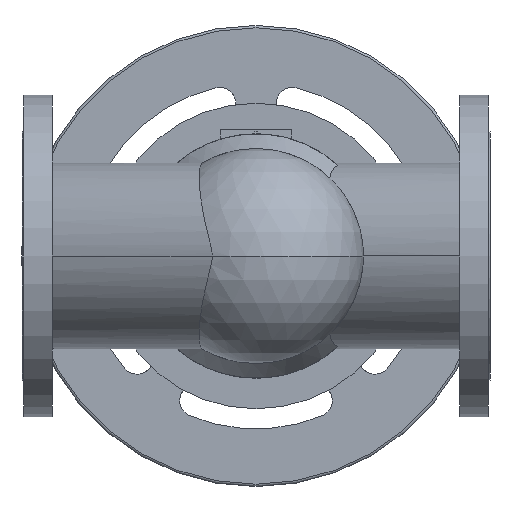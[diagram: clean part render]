
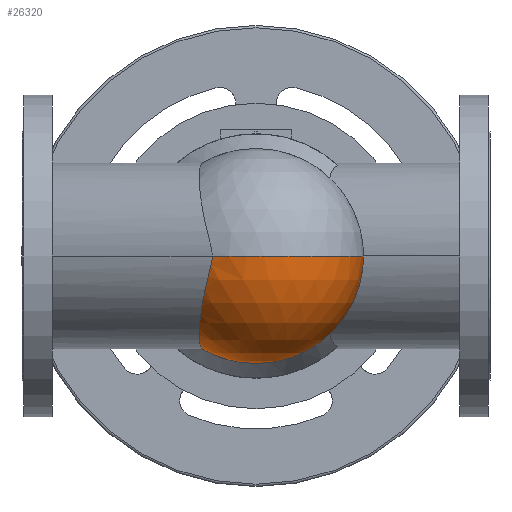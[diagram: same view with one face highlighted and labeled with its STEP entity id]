
A CAD part, front view. The second image highlights one B-rep face of the part: STEP entity #26320.
In plain terms, the highlighted spherical face has radius 93.165 mm.
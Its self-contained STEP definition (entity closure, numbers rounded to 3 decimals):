
#2660=CARTESIAN_POINT('',(155.997,-57.835,
80.439));
#2670=CARTESIAN_POINT('',(155.894,-58.823,
80.379));
#2680=CARTESIAN_POINT('',(155.793,-59.816,
80.301));
#2690=CARTESIAN_POINT('',(155.418,-63.585,
79.94));
#2700=CARTESIAN_POINT('',(155.161,-66.381,
79.538));
#2710=CARTESIAN_POINT('',(154.696,-71.966,
78.453));
#2720=CARTESIAN_POINT('',(154.489,-74.754,
77.772));
#2730=CARTESIAN_POINT('',(154.135,-80.276,
76.136));
#2740=CARTESIAN_POINT('',(153.988,-83.01,
75.181));
#2750=CARTESIAN_POINT('',(153.765,-88.374,
73.016));
#2760=CARTESIAN_POINT('',(153.688,-91.008,
71.805));
#2770=CARTESIAN_POINT('',(153.61,-96.136,
69.15));
#2780=CARTESIAN_POINT('',(153.609,-98.631,
67.707));
#2790=CARTESIAN_POINT('',(153.687,-103.442,
64.623));
#2800=CARTESIAN_POINT('',(153.766,-105.76,
62.982));
#2810=CARTESIAN_POINT('',(154.001,-110.187,
59.548));
#2820=CARTESIAN_POINT('',(154.159,-112.297,
57.755));
#2830=CARTESIAN_POINT('',(154.543,-116.244,
54.103));
#2840=CARTESIAN_POINT('',(154.775,-118.154,
52.184));
#2850=CARTESIAN_POINT('',(155.329,-121.835,
48.153));
#2860=CARTESIAN_POINT('',(155.651,-123.605,
46.041));
#2870=CARTESIAN_POINT('',(156.385,-126.966,
41.659));
#2880=CARTESIAN_POINT('',(156.798,-128.555,
39.39));
#2890=CARTESIAN_POINT('',(157.711,-131.522,
34.737));
#2900=CARTESIAN_POINT('',(158.211,-132.899,
32.354));
#2910=CARTESIAN_POINT('',(159.286,-135.419,
27.519));
#2920=CARTESIAN_POINT('',(159.86,-136.56,
25.071));
#2930=CARTESIAN_POINT('',(160.76,-138.087,
21.376));
#2940=CARTESIAN_POINT('',(161.067,-138.566,
20.141));
#2950=CARTESIAN_POINT('',(161.686,-139.46,
17.666));
#2960=CARTESIAN_POINT('',(161.999,-139.876,
16.426));
#2970=CARTESIAN_POINT('',(162.624,-140.641,
13.944));
#2980=CARTESIAN_POINT('',(162.934,-140.991,
12.703));
#2990=CARTESIAN_POINT('',(163.385,-141.461,
10.837));
#3000=CARTESIAN_POINT('',(163.533,-141.61,
10.215));
#3010=CARTESIAN_POINT('',(163.82,-141.887,
8.968));
#3020=CARTESIAN_POINT('',(163.959,-142.015,
8.343));
#3030=CARTESIAN_POINT('',(164.223,-142.252,
7.089));
#3040=CARTESIAN_POINT('',(164.347,-142.359,
6.46));
#3050=CARTESIAN_POINT('',(164.574,-142.55,
5.195));
#3060=CARTESIAN_POINT('',(164.677,-142.633,
4.559));
#3070=CARTESIAN_POINT('',(164.849,-142.77,
3.277));
#3080=CARTESIAN_POINT('',(164.919,-142.824,
2.631));
#3090=CARTESIAN_POINT('',(165.015,-142.897,
1.326));
#3100=CARTESIAN_POINT('',(165.041,-142.916,
0.667));
#3110=CARTESIAN_POINT('',(165.041,-142.916,
0.));
#3120=CARTESIAN_POINT('',(165.041,-142.916,
-0.667));
#3130=CARTESIAN_POINT('',(165.015,-142.897,
-1.326));
#3140=CARTESIAN_POINT('',(164.919,-142.824,
-2.631));
#3150=CARTESIAN_POINT('',(164.849,-142.77,
-3.277));
#3160=CARTESIAN_POINT('',(164.677,-142.633,
-4.559));
#3170=CARTESIAN_POINT('',(164.574,-142.55,
-5.195));
#3180=CARTESIAN_POINT('',(164.347,-142.359,
-6.46));
#3190=CARTESIAN_POINT('',(164.223,-142.252,
-7.089));
#3200=CARTESIAN_POINT('',(163.959,-142.015,
-8.343));
#3210=CARTESIAN_POINT('',(163.82,-141.887,
-8.968));
#3220=CARTESIAN_POINT('',(163.533,-141.61,
-10.215));
#3230=CARTESIAN_POINT('',(163.385,-141.461,
-10.837));
#3240=CARTESIAN_POINT('',(162.934,-140.991,
-12.703));
#3250=CARTESIAN_POINT('',(162.624,-140.641,
-13.944));
#3260=CARTESIAN_POINT('',(161.999,-139.876,
-16.426));
#3270=CARTESIAN_POINT('',(161.686,-139.46,
-17.666));
#3280=CARTESIAN_POINT('',(161.067,-138.566,
-20.141));
#3290=CARTESIAN_POINT('',(160.76,-138.087,
-21.376));
#3300=CARTESIAN_POINT('',(159.86,-136.56,
-25.071));
#3310=CARTESIAN_POINT('',(159.286,-135.419,
-27.519));
#3320=CARTESIAN_POINT('',(158.211,-132.899,
-32.354));
#3330=CARTESIAN_POINT('',(157.711,-131.522,
-34.737));
#3340=CARTESIAN_POINT('',(156.798,-128.555,
-39.39));
#3350=CARTESIAN_POINT('',(156.385,-126.966,
-41.659));
#3360=CARTESIAN_POINT('',(155.651,-123.605,
-46.041));
#3370=CARTESIAN_POINT('',(155.329,-121.835,
-48.153));
#3380=CARTESIAN_POINT('',(154.775,-118.154,
-52.184));
#3390=CARTESIAN_POINT('',(154.543,-116.244,
-54.103));
#3400=CARTESIAN_POINT('',(154.159,-112.297,
-57.755));
#3410=CARTESIAN_POINT('',(154.001,-110.187,
-59.548));
#3420=CARTESIAN_POINT('',(153.766,-105.76,
-62.982));
#3430=CARTESIAN_POINT('',(153.687,-103.442,
-64.623));
#3440=CARTESIAN_POINT('',(153.609,-98.631,
-67.707));
#3450=CARTESIAN_POINT('',(153.61,-96.136,
-69.15));
#3460=CARTESIAN_POINT('',(153.688,-91.008,
-71.805));
#3470=CARTESIAN_POINT('',(153.765,-88.374,
-73.016));
#3480=CARTESIAN_POINT('',(153.988,-83.01,
-75.181));
#3490=CARTESIAN_POINT('',(154.135,-80.276,
-76.136));
#3500=CARTESIAN_POINT('',(154.489,-74.754,
-77.772));
#3510=CARTESIAN_POINT('',(154.696,-71.966,
-78.453));
#3520=CARTESIAN_POINT('',(155.161,-66.381,
-79.538));
#3530=CARTESIAN_POINT('',(155.418,-63.585,
-79.94));
#3540=CARTESIAN_POINT('',(155.793,-59.816,
-80.301));
#3550=CARTESIAN_POINT('',(155.894,-58.823,
-80.379));
#3560=CARTESIAN_POINT('',(155.997,-57.835,
-80.439));
#3570=B_SPLINE_CURVE_WITH_KNOTS('',3,(#2660,#2670,#2680,#2690,#2700,
#2710,#2720,#2730,#2740,#2750,#2760,#2770,#2780,#2790,#2800,#2810,#2820,
#2830,#2840,#2850,#2860,#2870,#2880,#2890,#2900,#2910,#2920,#2930,#2940,
#2950,#2960,#2970,#2980,#2990,#3000,#3010,#3020,#3030,#3040,#3050,#3060,
#3070,#3080,#3090,#3100,#3110,#3120,#3130,#3140,#3150,#3160,#3170,#3180,
#3190,#3200,#3210,#3220,#3230,#3240,#3250,#3260,#3270,#3280,#3290,#3300,
#3310,#3320,#3330,#3340,#3350,#3360,#3370,#3380,#3390,#3400,#3410,#3420,
#3430,#3440,#3450,#3460,#3470,#3480,#3490,#3500,#3510,#3520,#3530,#3540,
#3550,#3560),.UNSPECIFIED.,.F.,.F.,(4,2,2,2,2,2,2,2,2,2,2,2,2,2,2,2,2,2,
2,2,2,2,3,2,2,2,2,2,2,2,2,2,2,2,2,2,2,2,2,2,2,2,2,2,4),(380.891
,383.82,391.986,400.151,408.317,
416.483,424.648,432.814,440.979,
448.987,456.994,465.002,473.009,
481.017,485.021,489.024,493.028,
495.03,497.032,499.034,501.036,
503.037,505.039,507.041,509.043,
511.045,513.047,515.049,517.051,
521.054,525.058,529.062,537.069,
545.077,553.084,561.092,569.099,
577.265,585.43,593.596,601.762,
609.927,618.093,626.258,629.188),
.UNSPECIFIED.);
#3580=CARTESIAN_POINT('',(165.041,-142.916,
0.));
#3590=VERTEX_POINT('',#3580);
#9520=CARTESIAN_POINT('',(296.162,-58.571,
0.));
#9530=VERTEX_POINT('',#9520);
#9560=CARTESIAN_POINT('',(295.68,-57.835,
9.495));
#9570=CARTESIAN_POINT('',(295.84,-58.078,
7.935));
#9580=CARTESIAN_POINT('',(295.959,-58.26,
6.374));
#9590=CARTESIAN_POINT('',(296.122,-58.51,
3.198));
#9600=CARTESIAN_POINT('',(296.162,-58.571,
1.585));
#9610=CARTESIAN_POINT('',(296.162,-58.571,
-1.585));
#9620=CARTESIAN_POINT('',(296.122,-58.51,
-3.198));
#9630=CARTESIAN_POINT('',(295.959,-58.26,
-6.374));
#9640=CARTESIAN_POINT('',(295.84,-58.078,
-7.935));
#9650=CARTESIAN_POINT('',(295.68,-57.835,
-9.495));
#9660=B_SPLINE_CURVE_WITH_KNOTS('',3,(#9560,#9570,#9580,#9590,#9600,
#9610,#9620,#9630,#9640,#9650),.UNSPECIFIED.,.F.,.F.,(4,2,2,2,4),(
163.387,167.923,172.679,177.435,
181.971),.UNSPECIFIED.);
#21340=CARTESIAN_POINT('',(203.,-57.835,0.));
#21350=DIRECTION('',(-0.,1.,0.));
#21360=DIRECTION('',(1.,0.,-0.));
#21370=AXIS2_PLACEMENT_3D('',#21340,#21350,#21360);
#21380=CIRCLE('',#21370,93.165);
#21390=CARTESIAN_POINT('',(203.,-57.835,-93.165));
#21400=VERTEX_POINT('',#21390);
#21410=CARTESIAN_POINT('',(155.997,-57.835,-80.439));
#21420=VERTEX_POINT('',#21410);
#21430=EDGE_CURVE('',#21400,#21420,#21380,.T.);
#21450=CARTESIAN_POINT('',(295.68,-57.835,-9.495));
#21460=VERTEX_POINT('',#21450);
#21470=EDGE_CURVE('',#21460,#21400,#21380,.T.);
#26120=CARTESIAN_POINT('',(203.,-57.835,0.));
#26130=DIRECTION('',(0.,0.,1.));
#26140=DIRECTION('',(1.,0.,0.));
#26150=AXIS2_PLACEMENT_3D('',#26120,#26130,#26140);
#26160=SPHERICAL_SURFACE('',#26150,93.165);
#26170=CARTESIAN_POINT('',(203.,-57.835,0.));
#26180=DIRECTION('',(0.,0.,1.));
#26190=DIRECTION('',(-1.,0.,0.));
#26200=AXIS2_PLACEMENT_3D('',#26170,#26180,#26190);
#26210=CIRCLE('',#26200,93.165);
#26220=EDGE_CURVE('',#3590,#9530,#26210,.T.);
#26230=ORIENTED_EDGE('',*,*,#26220,.F.);
#26240=EDGE_CURVE('',#9530,#21460,#9660,.T.);
#26250=ORIENTED_EDGE('',*,*,#26240,.F.);
#26260=ORIENTED_EDGE('',*,*,#21470,.F.);
#26270=ORIENTED_EDGE('',*,*,#21430,.F.);
#26280=EDGE_CURVE('',#3590,#21420,#3570,.T.);
#26290=ORIENTED_EDGE('',*,*,#26280,.T.);
#26300=EDGE_LOOP('',(#26290,#26270,#26260,#26250,#26230));
#26310=FACE_OUTER_BOUND('',#26300,.T.);
#26320=ADVANCED_FACE('',(#26310),#26160,.T.);
